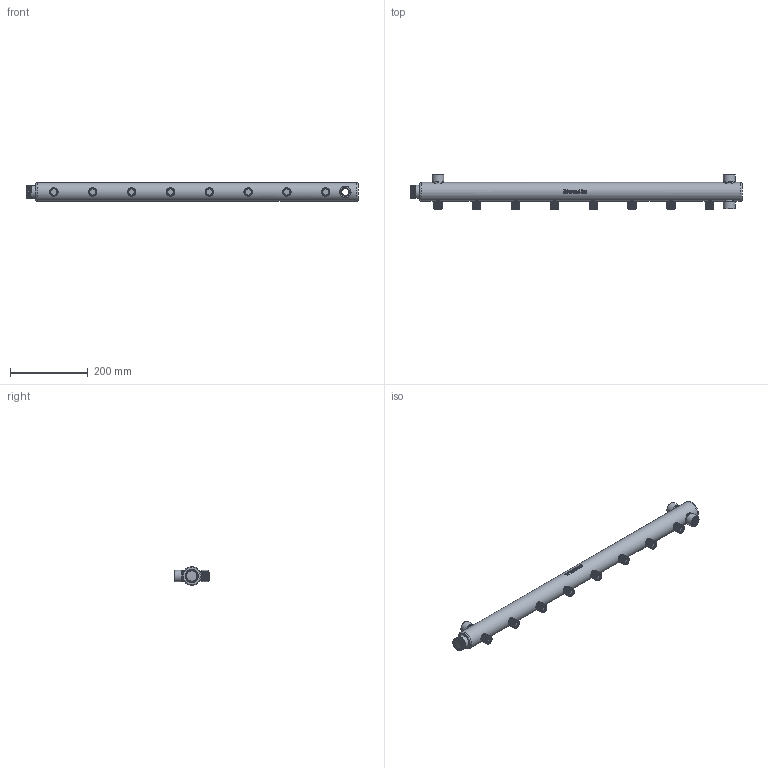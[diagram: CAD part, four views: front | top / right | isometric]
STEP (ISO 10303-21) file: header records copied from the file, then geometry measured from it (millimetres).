
FILE_DESCRIPTION(/* description */ (''),/* implementation_level */ '2;1');
FILE_NAME(/* name */ 'F:\Артём\00000\Работа удаленка\ГРВ\VTc.510.BS.060408.stp',/* time_stamp */ '2022-09-22T13:22:52+03:00',/* author */ ('almis'),/* organization */ (''),/* preprocessor_version */ 'ST-DEVELOPER v18',/* originating_system */ 'Autodesk Inventor 2020',/* authorisation */ '');
FILE_SCHEMA (('AUTOMOTIVE_DESIGN { 1 0 10303 214 3 1 1 }'));
Products named in the file (1): ГРВ-44.100
Bounding box: 855 x 89 x 48.02 mm (x, y, z)
Volume: 472261.9 mm3; surface area: 294263.6 mm2
Topology: 1 solids, 1 shells, 689 faces, 1881 edges, 1247 vertices
Faces by surface type: cylinder 381, plane 195, bspline 74, cone 37, torus 2
Full cylindrical faces by diameter (mm): 15.7 x14, 17.7 x96, 19 x30, 19.3 x8, 21.3 x80, 22.6 x33, 27.1 x1, 28 x5, 28.9 x6, 30 x3, 33.5 x6, 41 x1, 48 x1
Entity records: 56473 total; most frequent: CARTESIAN_POINT 40772, ORIENTED_EDGE 3762, DIRECTION 2428, EDGE_CURVE 1881, VERTEX_POINT 1247, B_SPLINE_CURVE_WITH_KNOTS 922, AXIS2_PLACEMENT_3D 853, EDGE_LOOP 752
